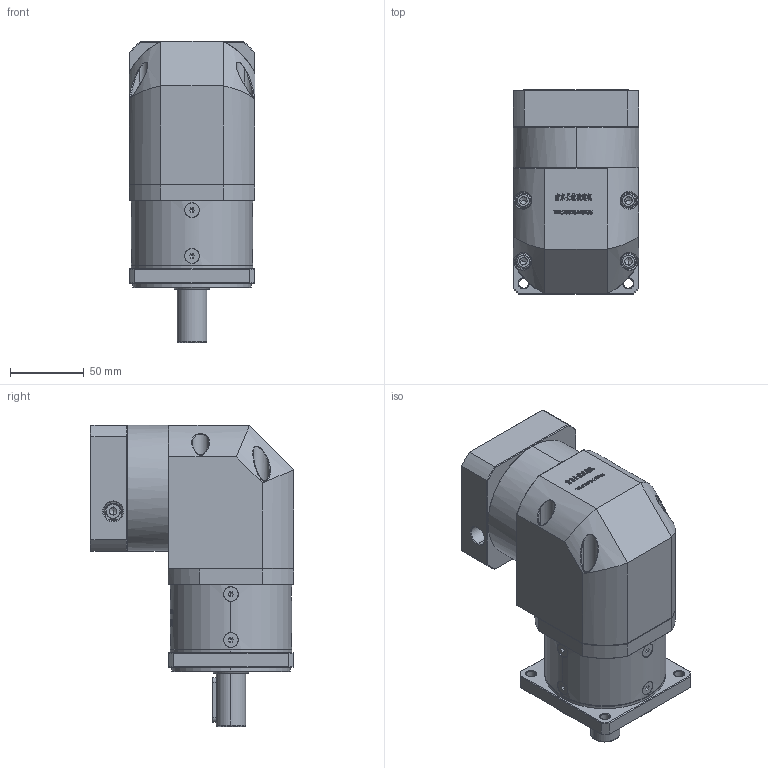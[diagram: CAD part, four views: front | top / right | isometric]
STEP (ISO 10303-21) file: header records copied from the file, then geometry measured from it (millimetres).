
FILE_DESCRIPTION (( 'STEP AP214' ), '1' );
FILE_NAME ('ZFR80-D20-L1-19-70-90-M6.step', '2022-05-08T12:05:13', ( '' ), ( 'Microsoft' ), 'SwSTEP 2.0', 'SolidWorks 2016', '' );
FILE_SCHEMA (( 'AUTOMOTIVE_DESIGN' ));
Length unit declared in the file: millimetre
Products named in the file (1): ZFR80-D20-L1-19-70-90-M6
Bounding box: 85 x 137.6 x 203.5 mm (x, y, z)
Volume: 1255658.6 mm3; surface area: 135349.1 mm2
Topology: 13 solids, 13 shells, 3060 faces, 8037 edges, 5125 vertices
Faces by surface type: plane 1619, bspline 624, cylinder 443, cone 360, torus 14
Entity records: 165096 total; most frequent: CARTESIAN_POINT 61711, ORIENTED_EDGE 15982, DIRECTION 12021, EDGE_CURVE 7991, VERTEX_POINT 5125, VECTOR 4971, LINE 4971, AXIS2_PLACEMENT_3D 3525
